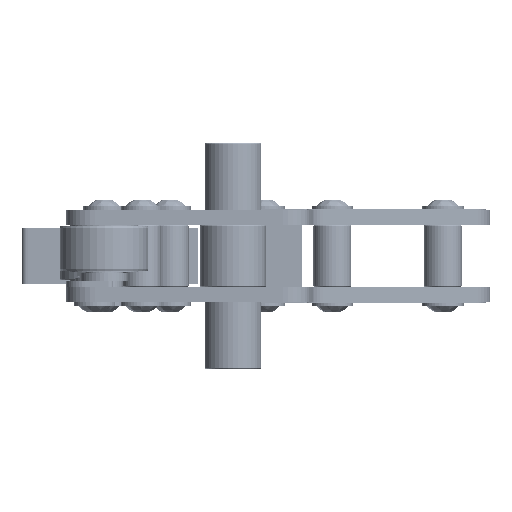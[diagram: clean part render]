
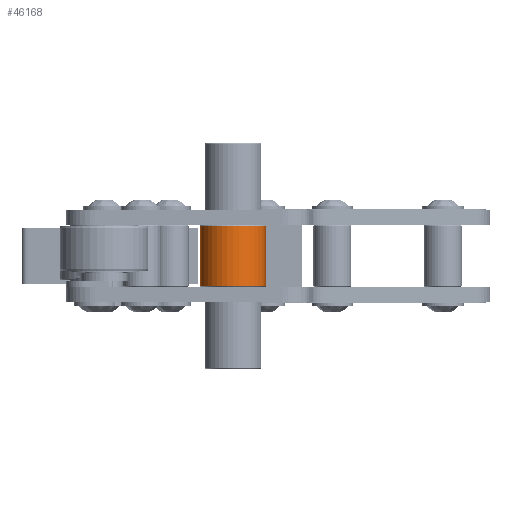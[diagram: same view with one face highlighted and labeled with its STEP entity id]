
A CAD part, left-side view. The second image highlights one B-rep face of the part: STEP entity #46168.
In plain terms, the highlighted cylindrical face has radius 17.5 mm (diameter 35 mm), a full revolution.
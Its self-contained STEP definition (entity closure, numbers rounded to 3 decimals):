
#3602=CYLINDRICAL_SURFACE('',#48888,17.5);
#3979=FACE_BOUND('',#7969,.T.);
#4565=CIRCLE('',#48886,17.5);
#4567=CIRCLE('',#48889,17.5);
#5262=FACE_OUTER_BOUND('',#7968,.T.);
#7968=EDGE_LOOP('',(#32860));
#7969=EDGE_LOOP('',(#32861));
#20642=VERTEX_POINT('',#63845);
#20644=VERTEX_POINT('',#63850);
#25366=EDGE_CURVE('',#20642,#20642,#4565,.T.);
#25368=EDGE_CURVE('',#20644,#20644,#4567,.T.);
#32860=ORIENTED_EDGE('',*,*,#25368,.F.);
#32861=ORIENTED_EDGE('',*,*,#25366,.F.);
#46168=ADVANCED_FACE('',(#5262,#3979),#3602,.T.);
#48886=AXIS2_PLACEMENT_3D('',#63846,#52602,#52603);
#48888=AXIS2_PLACEMENT_3D('',#63849,#52606,#52607);
#48889=AXIS2_PLACEMENT_3D('',#63851,#52608,#52609);
#52602=DIRECTION('center_axis',(0.,0.,-1.));
#52603=DIRECTION('ref_axis',(-1.,0.,0.));
#52606=DIRECTION('center_axis',(0.,0.,1.));
#52607=DIRECTION('ref_axis',(-1.,0.,0.));
#52608=DIRECTION('center_axis',(0.,0.,1.));
#52609=DIRECTION('ref_axis',(-1.,0.,0.));
#63845=CARTESIAN_POINT('',(17.5,0.,-16.));
#63846=CARTESIAN_POINT('Origin',(0.,0.,-16.));
#63849=CARTESIAN_POINT('Origin',(0.,0.,0.));
#63850=CARTESIAN_POINT('',(17.5,0.,16.));
#63851=CARTESIAN_POINT('Origin',(0.,0.,16.));
